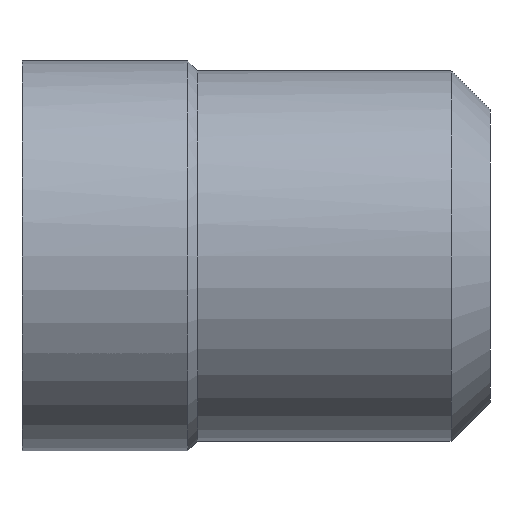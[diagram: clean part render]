
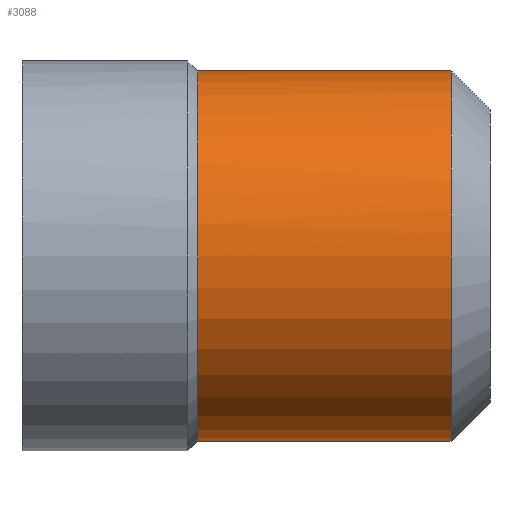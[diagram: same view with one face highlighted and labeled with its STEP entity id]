
A CAD part, front view. The second image highlights one B-rep face of the part: STEP entity #3088.
In plain terms, the highlighted cylindrical face has radius 4.75 mm (diameter 9.5 mm), a partial arc.
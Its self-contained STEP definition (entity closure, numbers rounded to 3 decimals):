
#2734=CARTESIAN_POINT('Vertex',(4.5,0.,4.75)) ;
#2748=CARTESIAN_POINT('Vertex',(4.5,0.,-4.75)) ;
#2770=CARTESIAN_POINT('Axis2P3D Location',(4.5,0.,0.)) ;
#2774=CARTESIAN_POINT('Vertex',(4.5,-4.75,0.)) ;
#2777=CARTESIAN_POINT('Axis2P3D Location',(4.5,0.,0.)) ;
#3022=CARTESIAN_POINT('Line Origine',(4.564,0.,-4.75)) ;
#3026=CARTESIAN_POINT('Vertex',(11.,0.,-4.75)) ;
#3029=CARTESIAN_POINT('Line Origine',(4.564,0.,4.75)) ;
#3033=CARTESIAN_POINT('Vertex',(11.,0.,4.75)) ;
#3060=CARTESIAN_POINT('Axis2P3D Location',(4.564,0.,0.)) ;
#3065=CARTESIAN_POINT('Axis2P3D Location',(11.,0.,0.)) ;
#3069=CARTESIAN_POINT('Vertex',(11.,-4.75,0.)) ;
#3073=CARTESIAN_POINT('Control Point',(11.,0.,4.75)) ;
#3074=CARTESIAN_POINT('Control Point',(11.,-1.492,4.75)) ;
#3075=CARTESIAN_POINT('Control Point',(11.,-2.986,4.166)) ;
#3076=CARTESIAN_POINT('Control Point',(11.,-4.166,2.986)) ;
#3077=CARTESIAN_POINT('Control Point',(11.,-4.75,1.492)) ;
#3078=CARTESIAN_POINT('Control Point',(11.,-4.75,0.)) ;
#2771=DIRECTION('Axis2P3D Direction',(-1.,0.,0.)) ;
#2778=DIRECTION('Axis2P3D Direction',(-1.,0.,0.)) ;
#3023=DIRECTION('Vector Direction',(-1.,0.,0.)) ;
#3030=DIRECTION('Vector Direction',(-1.,0.,0.)) ;
#3061=DIRECTION('Axis2P3D Direction',(-1.,-0.,-0.)) ;
#3062=DIRECTION('Axis2P3D XDirection',(0.,0.,-1.)) ;
#3066=DIRECTION('Axis2P3D Direction',(-1.,-0.,-0.)) ;
#2772=AXIS2_PLACEMENT_3D('Circle Axis2P3D',#2770,#2771,$) ;
#2779=AXIS2_PLACEMENT_3D('Circle Axis2P3D',#2777,#2778,$) ;
#3063=AXIS2_PLACEMENT_3D('Cylinder Axis2P3D',#3060,#3061,#3062) ;
#3067=AXIS2_PLACEMENT_3D('Circle Axis2P3D',#3065,#3066,$) ;
#3081=ORIENTED_EDGE('',*,*,#3035,.T.) ;
#3082=ORIENTED_EDGE('',*,*,#2781,.T.) ;
#3083=ORIENTED_EDGE('',*,*,#2776,.T.) ;
#3084=ORIENTED_EDGE('',*,*,#3028,.T.) ;
#3085=ORIENTED_EDGE('',*,*,#3071,.F.) ;
#3086=ORIENTED_EDGE('',*,*,#3079,.F.) ;
#3024=VECTOR('Line Direction',#3023,1.) ;
#3031=VECTOR('Line Direction',#3030,1.) ;
#3088=ADVANCED_FACE('MSO610',(#3087),#3064,.T.) ;
#3072=B_SPLINE_CURVE_WITH_KNOTS('',5,(#3073,#3074,#3075,#3076,#3077,#3078),.UNSPECIFIED.,.F.,.U.,(6,6),(-3.731,3.731),.UNSPECIFIED.) ;
#2773=CIRCLE('generated circle',#2772,4.75) ;
#2780=CIRCLE('generated circle',#2779,4.75) ;
#3068=CIRCLE('generated circle',#3067,4.75) ;
#3064=CYLINDRICAL_SURFACE('generated cylinder',#3063,4.75) ;
#2776=EDGE_CURVE('',#2775,#2749,#2773,.F.) ;
#2781=EDGE_CURVE('',#2735,#2775,#2780,.F.) ;
#3028=EDGE_CURVE('',#2749,#3027,#3025,.F.) ;
#3035=EDGE_CURVE('',#3034,#2735,#3032,.T.) ;
#3071=EDGE_CURVE('',#3070,#3027,#3068,.F.) ;
#3079=EDGE_CURVE('',#3034,#3070,#3072,.T.) ;
#3080=EDGE_LOOP('',(#3081,#3082,#3083,#3084,#3085,#3086)) ;
#3087=FACE_OUTER_BOUND('',#3080,.T.) ;
#3025=LINE('Line',#3022,#3024) ;
#3032=LINE('Line',#3029,#3031) ;
#2735=VERTEX_POINT('',#2734) ;
#2749=VERTEX_POINT('',#2748) ;
#2775=VERTEX_POINT('',#2774) ;
#3027=VERTEX_POINT('',#3026) ;
#3034=VERTEX_POINT('',#3033) ;
#3070=VERTEX_POINT('',#3069) ;
